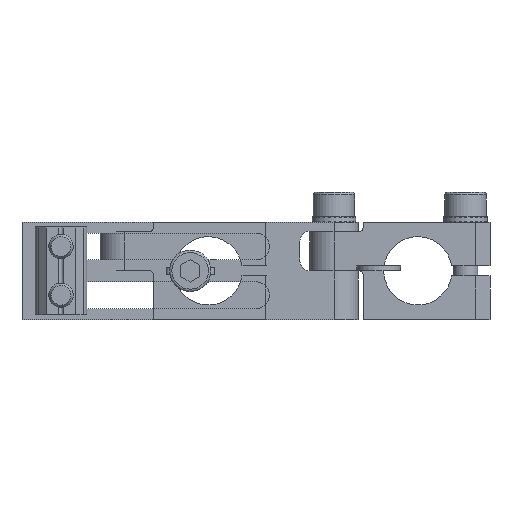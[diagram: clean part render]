
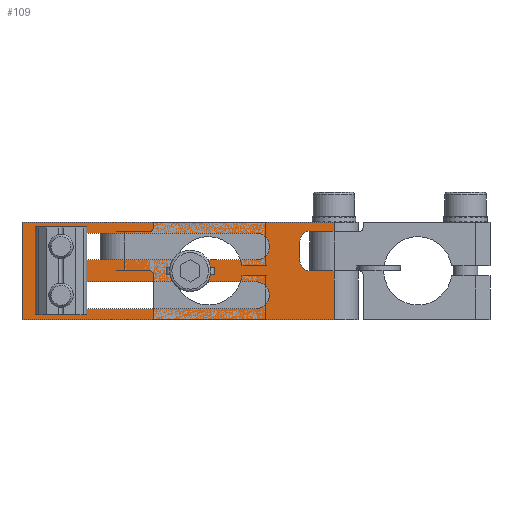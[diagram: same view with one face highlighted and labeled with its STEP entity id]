
A CAD part, left-side view. The second image highlights one B-rep face of the part: STEP entity #109.
In plain terms, the highlighted planar face has unit normal (-1, 0, 0).
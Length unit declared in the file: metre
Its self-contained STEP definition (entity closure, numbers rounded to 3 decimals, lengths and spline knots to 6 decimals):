
#109 = ADVANCED_FACE( '', ( #202, #203, #204 ), #205, .T. );
#202 = FACE_BOUND( '', #330, .T. );
#203 = FACE_OUTER_BOUND( '', #331, .T. );
#204 = FACE_BOUND( '', #332, .T. );
#205 = PLANE( '', #333 );
#330 = EDGE_LOOP( '', ( #717, #718, #719, #720 ) );
#331 = EDGE_LOOP( '', ( #721, #722, #723, #724, #725, #726, #727, #728, #729, #730 ) );
#332 = EDGE_LOOP( '', ( #731, #732, #733, #734 ) );
#333 = AXIS2_PLACEMENT_3D( '', #735, #736, #737 );
#717 = ORIENTED_EDGE( '', *, *, #1489, .T. );
#718 = ORIENTED_EDGE( '', *, *, #1490, .T. );
#719 = ORIENTED_EDGE( '', *, *, #1491, .T. );
#720 = ORIENTED_EDGE( '', *, *, #1492, .T. );
#721 = ORIENTED_EDGE( '', *, *, #1493, .F. );
#722 = ORIENTED_EDGE( '', *, *, #1494, .T. );
#723 = ORIENTED_EDGE( '', *, *, #1495, .T. );
#724 = ORIENTED_EDGE( '', *, *, #1496, .T. );
#725 = ORIENTED_EDGE( '', *, *, #1497, .T. );
#726 = ORIENTED_EDGE( '', *, *, #1498, .T. );
#727 = ORIENTED_EDGE( '', *, *, #1499, .T. );
#728 = ORIENTED_EDGE( '', *, *, #1500, .T. );
#729 = ORIENTED_EDGE( '', *, *, #1501, .F. );
#730 = ORIENTED_EDGE( '', *, *, #1502, .F. );
#731 = ORIENTED_EDGE( '', *, *, #1503, .T. );
#732 = ORIENTED_EDGE( '', *, *, #1504, .T. );
#733 = ORIENTED_EDGE( '', *, *, #1505, .T. );
#734 = ORIENTED_EDGE( '', *, *, #1506, .T. );
#735 = CARTESIAN_POINT( '', ( -0.005, -0.0345, 0.01 ) );
#736 = DIRECTION( '', ( -1., 0., 0. ) );
#737 = DIRECTION( '', ( 0., -1., 0. ) );
#1489 = EDGE_CURVE( '', #2137, #2138, #2139, .F. );
#1490 = EDGE_CURVE( '', #2138, #2140, #2141, .T. );
#1491 = EDGE_CURVE( '', #2140, #2142, #2143, .F. );
#1492 = EDGE_CURVE( '', #2142, #2137, #2144, .T. );
#1493 = EDGE_CURVE( '', #2145, #2146, #2147, .T. );
#1494 = EDGE_CURVE( '', #2145, #2148, #2149, .F. );
#1495 = EDGE_CURVE( '', #2148, #2150, #2151, .T. );
#1496 = EDGE_CURVE( '', #2150, #2152, #2153, .F. );
#1497 = EDGE_CURVE( '', #2152, #2154, #2155, .T. );
#1498 = EDGE_CURVE( '', #2154, #2156, #2157, .F. );
#1499 = EDGE_CURVE( '', #2156, #2158, #2159, .T. );
#1500 = EDGE_CURVE( '', #2158, #2160, #2161, .F. );
#1501 = EDGE_CURVE( '', #2162, #2160, #2163, .T. );
#1502 = EDGE_CURVE( '', #2146, #2162, #2164, .T. );
#1503 = EDGE_CURVE( '', #2165, #2166, #2167, .F. );
#1504 = EDGE_CURVE( '', #2166, #2168, #2169, .T. );
#1505 = EDGE_CURVE( '', #2168, #2170, #2171, .F. );
#1506 = EDGE_CURVE( '', #2170, #2165, #2172, .T. );
#2137 = VERTEX_POINT( '', #4610 );
#2138 = VERTEX_POINT( '', #4611 );
#2139 = CIRCLE( '', #4612, 0.00275 );
#2140 = VERTEX_POINT( '', #4613 );
#2141 = LINE( '', #4614, #4615 );
#2142 = VERTEX_POINT( '', #4616 );
#2143 = CIRCLE( '', #4617, 0.00275 );
#2144 = LINE( '', #4618, #4619 );
#2145 = VERTEX_POINT( '', #4620 );
#2146 = VERTEX_POINT( '', #4621 );
#2147 = LINE( '', #4622, #4623 );
#2148 = VERTEX_POINT( '', #4624 );
#2149 = LINE( '', #4625, #4626 );
#2150 = VERTEX_POINT( '', #4627 );
#2151 = LINE( '', #4628, #4629 );
#2152 = VERTEX_POINT( '', #4630 );
#2153 = CIRCLE( '', #4631, 0.002 );
#2154 = VERTEX_POINT( '', #4632 );
#2155 = LINE( '', #4633, #4634 );
#2156 = VERTEX_POINT( '', #4635 );
#2157 = CIRCLE( '', #4636, 0.002 );
#2158 = VERTEX_POINT( '', #4637 );
#2159 = LINE( '', #4638, #4639 );
#2160 = VERTEX_POINT( '', #4640 );
#2161 = LINE( '', #4641, #4642 );
#2162 = VERTEX_POINT( '', #4643 );
#2163 = LINE( '', #4644, #4645 );
#2164 = LINE( '', #4646, #4647 );
#2165 = VERTEX_POINT( '', #4648 );
#2166 = VERTEX_POINT( '', #4649 );
#2167 = CIRCLE( '', #4650, 0.00275 );
#2168 = VERTEX_POINT( '', #4651 );
#2169 = LINE( '', #4652, #4653 );
#2170 = VERTEX_POINT( '', #4654 );
#2171 = CIRCLE( '', #4655, 0.00275 );
#2172 = LINE( '', #4656, #4657 );
#4610 = CARTESIAN_POINT( '', ( -0.005, 0.0265, 0.00225 ) );
#4611 = CARTESIAN_POINT( '', ( -0.005, 0.0265, 0.00775 ) );
#4612 = AXIS2_PLACEMENT_3D( '', #5537, #5538, #5539 );
#4613 = CARTESIAN_POINT( '', ( -0.005, -0.0135, 0.00775 ) );
#4614 = CARTESIAN_POINT( '', ( -0.005, -0.0345, 0.00775 ) );
#4615 = VECTOR( '', #5540, 1. );
#4616 = CARTESIAN_POINT( '', ( -0.005, -0.0135, 0.00225 ) );
#4617 = AXIS2_PLACEMENT_3D( '', #5541, #5542, #5543 );
#4618 = CARTESIAN_POINT( '', ( -0.005, -0.0345, 0.00225 ) );
#4619 = VECTOR( '', #5544, 1. );
#4620 = CARTESIAN_POINT( '', ( -0.005, -0.0295, -0.01 ) );
#4621 = CARTESIAN_POINT( '', ( -0.005, 0.0345, -0.01 ) );
#4622 = CARTESIAN_POINT( '', ( -0.005, -0.0345, -0.01 ) );
#4623 = VECTOR( '', #5545, 1. );
#4624 = CARTESIAN_POINT( '', ( -0.005, -0.0295, 0. ) );
#4625 = CARTESIAN_POINT( '', ( -0.005, -0.0295, 0. ) );
#4626 = VECTOR( '', #5546, 1. );
#4627 = CARTESIAN_POINT( '', ( -0.005, -0.0245, 0. ) );
#4628 = CARTESIAN_POINT( '', ( -0.005, -0.0345, 0. ) );
#4629 = VECTOR( '', #5547, 1. );
#4630 = CARTESIAN_POINT( '', ( -0.005, -0.0225, 0.002 ) );
#4631 = AXIS2_PLACEMENT_3D( '', #5548, #5549, #5550 );
#4632 = CARTESIAN_POINT( '', ( -0.005, -0.0225, 0.0061 ) );
#4633 = CARTESIAN_POINT( '', ( -0.005, -0.0225, 0.01 ) );
#4634 = VECTOR( '', #5551, 1. );
#4635 = CARTESIAN_POINT( '', ( -0.005, -0.0245, 0.0081 ) );
#4636 = AXIS2_PLACEMENT_3D( '', #5552, #5553, #5554 );
#4637 = CARTESIAN_POINT( '', ( -0.005, -0.0295, 0.0081 ) );
#4638 = CARTESIAN_POINT( '', ( -0.005, -0.0345, 0.0081 ) );
#4639 = VECTOR( '', #5555, 1. );
#4640 = CARTESIAN_POINT( '', ( -0.005, -0.0295, 0.01 ) );
#4641 = CARTESIAN_POINT( '', ( -0.005, -0.0295, 0.01 ) );
#4642 = VECTOR( '', #5556, 1. );
#4643 = CARTESIAN_POINT( '', ( -0.005, 0.0345, 0.01 ) );
#4644 = CARTESIAN_POINT( '', ( -0.005, 0.0345, 0.01 ) );
#4645 = VECTOR( '', #5557, 1. );
#4646 = CARTESIAN_POINT( '', ( -0.005, 0.0345, -0.01 ) );
#4647 = VECTOR( '', #5558, 1. );
#4648 = CARTESIAN_POINT( '', ( -0.005, 0.0265, -0.00775 ) );
#4649 = CARTESIAN_POINT( '', ( -0.005, 0.0265, -0.00225 ) );
#4650 = AXIS2_PLACEMENT_3D( '', #5559, #5560, #5561 );
#4651 = CARTESIAN_POINT( '', ( -0.005, -0.0135, -0.00225 ) );
#4652 = CARTESIAN_POINT( '', ( -0.005, -0.0345, -0.00225 ) );
#4653 = VECTOR( '', #5562, 1. );
#4654 = CARTESIAN_POINT( '', ( -0.005, -0.0135, -0.00775 ) );
#4655 = AXIS2_PLACEMENT_3D( '', #5563, #5564, #5565 );
#4656 = CARTESIAN_POINT( '', ( -0.005, -0.0345, -0.00775 ) );
#4657 = VECTOR( '', #5566, 1. );
#5537 = CARTESIAN_POINT( '', ( -0.005, 0.0265, 0.005 ) );
#5538 = DIRECTION( '', ( -1., 0., 0. ) );
#5539 = DIRECTION( '', ( 0., -1., 0. ) );
#5540 = DIRECTION( '', ( 0., -1., 0. ) );
#5541 = CARTESIAN_POINT( '', ( -0.005, -0.0135, 0.005 ) );
#5542 = DIRECTION( '', ( -1., 0., 0. ) );
#5543 = DIRECTION( '', ( 0., -1., 0. ) );
#5544 = DIRECTION( '', ( 0., 1., 0. ) );
#5545 = DIRECTION( '', ( 0., 1., 0. ) );
#5546 = DIRECTION( '', ( 0., 0., -1. ) );
#5547 = DIRECTION( '', ( 0., 1., 0. ) );
#5548 = CARTESIAN_POINT( '', ( -0.005, -0.0245, 0.002 ) );
#5549 = DIRECTION( '', ( -1., 0., 0. ) );
#5550 = DIRECTION( '', ( 0., -1., 0. ) );
#5551 = DIRECTION( '', ( 0., 0., 1. ) );
#5552 = CARTESIAN_POINT( '', ( -0.005, -0.0245, 0.0061 ) );
#5553 = DIRECTION( '', ( -1., 0., 0. ) );
#5554 = DIRECTION( '', ( 0., -1., 0. ) );
#5555 = DIRECTION( '', ( 0., -1., 0. ) );
#5556 = DIRECTION( '', ( 0., 0., -1. ) );
#5557 = DIRECTION( '', ( 0., -1., 0. ) );
#5558 = DIRECTION( '', ( 0., 0., 1. ) );
#5559 = CARTESIAN_POINT( '', ( -0.005, 0.0265, -0.005 ) );
#5560 = DIRECTION( '', ( -1., 0., 0. ) );
#5561 = DIRECTION( '', ( 0., -1., 0. ) );
#5562 = DIRECTION( '', ( 0., -1., 0. ) );
#5563 = CARTESIAN_POINT( '', ( -0.005, -0.0135, -0.005 ) );
#5564 = DIRECTION( '', ( -1., 0., 0. ) );
#5565 = DIRECTION( '', ( 0., -1., 0. ) );
#5566 = DIRECTION( '', ( 0., 1., 0. ) );
